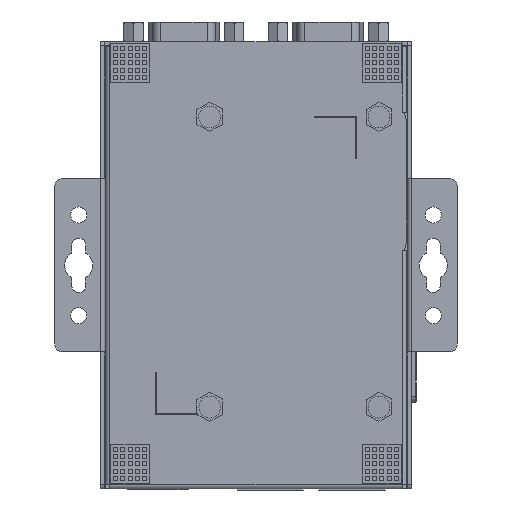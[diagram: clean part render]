
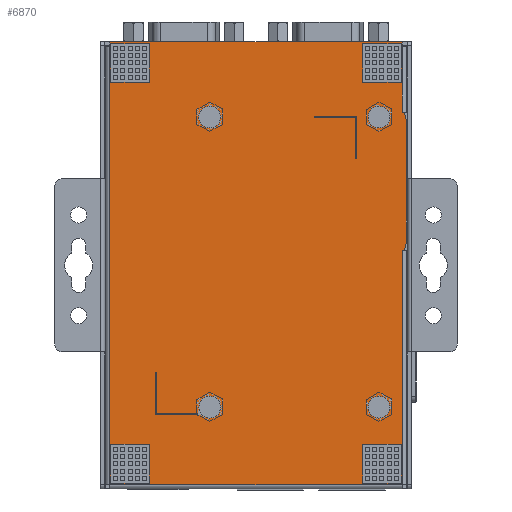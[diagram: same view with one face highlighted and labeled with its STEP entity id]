
A CAD part, front view. The second image highlights one B-rep face of the part: STEP entity #6870.
In plain terms, the highlighted planar face has unit normal (0, -1, 0).
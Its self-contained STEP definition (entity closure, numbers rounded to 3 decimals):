
#447=CARTESIAN_POINT('',(-11.495,0.,36.805));
#448=DIRECTION('',(0.,1.,0.));
#449=DIRECTION('',(0.,0.,1.));
#450=AXIS2_PLACEMENT_3D('',#447,#448,#449);
#455=CARTESIAN_POINT('',(-11.495,0.,36.805));
#456=DIRECTION('',(0.,1.,0.));
#457=DIRECTION('',(0.,0.,-1.));
#458=AXIS2_PLACEMENT_3D('',#455,#456,#457);
#463=CARTESIAN_POINT('',(30.524,0.,36.795));
#464=DIRECTION('',(0.,1.,0.));
#465=DIRECTION('',(0.,0.,1.));
#466=AXIS2_PLACEMENT_3D('',#463,#464,#465);
#471=CARTESIAN_POINT('',(30.524,0.,36.795));
#472=DIRECTION('',(0.,1.,0.));
#473=DIRECTION('',(0.,0.,-1.));
#474=AXIS2_PLACEMENT_3D('',#471,#472,#473);
#479=CARTESIAN_POINT('',(-11.485,0.,-35.196));
#480=DIRECTION('',(0.,1.,0.));
#481=DIRECTION('',(0.,0.,1.));
#482=AXIS2_PLACEMENT_3D('',#479,#480,#481);
#487=CARTESIAN_POINT('',(-11.485,0.,-35.196));
#488=DIRECTION('',(0.,1.,0.));
#489=DIRECTION('',(0.,0.,-1.));
#490=AXIS2_PLACEMENT_3D('',#487,#488,#489);
#495=CARTESIAN_POINT('',(30.504,0.,-35.204));
#496=DIRECTION('',(0.,1.,0.));
#497=DIRECTION('',(0.,0.,1.));
#498=AXIS2_PLACEMENT_3D('',#495,#496,#497);
#503=CARTESIAN_POINT('',(30.504,0.,-35.204));
#504=DIRECTION('',(0.,1.,0.));
#505=DIRECTION('',(0.,0.,-1.));
#506=AXIS2_PLACEMENT_3D('',#503,#504,#505);
#511=DIRECTION('',(-1.,0.,0.));
#512=VECTOR('',#511,10.5);
#513=CARTESIAN_POINT('',(-14.5,0.,-37.));
#514=LINE('',#513,#512);
#518=DIRECTION('',(0.,0.,-1.));
#519=VECTOR('',#518,0.2);
#520=CARTESIAN_POINT('',(-14.5,0.,-36.8));
#521=LINE('',#520,#519);
#525=DIRECTION('',(1.,0.,0.));
#526=VECTOR('',#525,10.3);
#527=CARTESIAN_POINT('',(-24.8,0.,-36.8));
#528=LINE('',#527,#526);
#532=DIRECTION('',(0.,0.,-1.));
#533=VECTOR('',#532,10.3);
#534=CARTESIAN_POINT('',(-24.8,0.,-26.5));
#535=LINE('',#534,#533);
#539=DIRECTION('',(1.,0.,0.));
#540=VECTOR('',#539,0.2);
#541=CARTESIAN_POINT('',(-25.,0.,-26.5));
#542=LINE('',#541,#540);
#546=DIRECTION('',(0.,0.,1.));
#547=VECTOR('',#546,10.5);
#548=CARTESIAN_POINT('',(-25.,0.,-37.));
#549=LINE('',#548,#547);
#553=DIRECTION('',(0.,0.,-1.));
#554=VECTOR('',#553,10.5);
#555=CARTESIAN_POINT('',(25.,0.,37.));
#556=LINE('',#555,#554);
#560=DIRECTION('',(1.,0.,0.));
#561=VECTOR('',#560,10.5);
#562=CARTESIAN_POINT('',(14.5,0.,37.));
#563=LINE('',#562,#561);
#567=DIRECTION('',(0.,0.,1.));
#568=VECTOR('',#567,0.2);
#569=CARTESIAN_POINT('',(14.5,0.,36.8));
#570=LINE('',#569,#568);
#574=DIRECTION('',(-1.,0.,0.));
#575=VECTOR('',#574,10.3);
#576=CARTESIAN_POINT('',(24.8,0.,36.8));
#577=LINE('',#576,#575);
#581=DIRECTION('',(0.,0.,1.));
#582=VECTOR('',#581,10.3);
#583=CARTESIAN_POINT('',(24.8,0.,26.5));
#584=LINE('',#583,#582);
#588=DIRECTION('',(-1.,0.,0.));
#589=VECTOR('',#588,0.2);
#590=CARTESIAN_POINT('',(25.,0.,26.5));
#591=LINE('',#590,#589);
#595=DIRECTION('',(0.,0.,-1.));
#596=VECTOR('',#595,1.15);
#597=CARTESIAN_POINT('',(-36.35,0.,55.5));
#598=LINE('',#597,#596);
#602=DIRECTION('',(-1.,0.,0.));
#603=VECTOR('',#602,72.7);
#604=CARTESIAN_POINT('',(36.35,0.,55.5));
#605=LINE('',#604,#603);
#609=DIRECTION('',(0.,0.,1.));
#610=VECTOR('',#609,1.15);
#611=CARTESIAN_POINT('',(36.35,0.,54.35));
#612=LINE('',#611,#610);
#616=DIRECTION('',(-1.,0.,0.));
#617=VECTOR('',#616,0.5);
#618=CARTESIAN_POINT('',(36.85,0.,38.01));
#619=LINE('',#618,#617);
#623=DIRECTION('',(-0.243,0.,0.97));
#624=VECTOR('',#623,2.062);
#625=CARTESIAN_POINT('',(37.35,0.,36.01));
#626=LINE('',#625,#624);
#630=DIRECTION('',(0.,0.,1.));
#631=VECTOR('',#630,30.25);
#632=CARTESIAN_POINT('',(37.35,0.,5.76));
#633=LINE('',#632,#631);
#637=DIRECTION('',(0.243,0.,0.97));
#638=VECTOR('',#637,2.062);
#639=CARTESIAN_POINT('',(36.85,0.,3.76));
#640=LINE('',#639,#638);
#644=DIRECTION('',(1.,0.,0.));
#645=VECTOR('',#644,0.5);
#646=CARTESIAN_POINT('',(36.35,0.,3.76));
#647=LINE('',#646,#645);
#868=DIRECTION('',(0.,0.,-1.));
#869=VECTOR('',#868,58.26);
#870=CARTESIAN_POINT('',(36.35,0.,3.76));
#871=LINE('',#870,#869);
#3021=DIRECTION('',(-1.,0.,0.));
#3022=VECTOR('',#3021,72.7);
#3023=CARTESIAN_POINT('',(36.35,0.,-54.5));
#3024=LINE('',#3023,#3022);
#4601=DIRECTION('',(0.,0.,-1.));
#4602=VECTOR('',#4601,16.34);
#4603=CARTESIAN_POINT('',(36.35,0.,54.35));
#4604=LINE('',#4603,#4602);
#4681=DIRECTION('',(0.,0.,1.));
#4682=VECTOR('',#4681,108.85);
#4683=CARTESIAN_POINT('',(-36.35,0.,-54.5));
#4684=LINE('',#4683,#4682);
#5980=CARTESIAN_POINT('',(-36.35,0.,-54.5));
#5982=VERTEX_POINT('',#5980);
#5987=CARTESIAN_POINT('',(36.35,0.,-54.5));
#5988=VERTEX_POINT('',#5987);
#5989=CARTESIAN_POINT('',(-36.35,0.,54.35));
#5990=VERTEX_POINT('',#5989);
#6025=CARTESIAN_POINT('',(-36.35,0.,55.5));
#6026=VERTEX_POINT('',#6025);
#6029=CARTESIAN_POINT('',(36.35,0.,54.35));
#6030=CARTESIAN_POINT('',(36.35,0.,55.5));
#6031=VERTEX_POINT('',#6029);
#6032=VERTEX_POINT('',#6030);
#6063=CARTESIAN_POINT('',(36.85,0.,3.76));
#6064=CARTESIAN_POINT('',(37.35,0.,5.76));
#6065=VERTEX_POINT('',#6063);
#6066=VERTEX_POINT('',#6064);
#6067=CARTESIAN_POINT('',(-11.495,0.,39.505));
#6068=CARTESIAN_POINT('',(-11.495,0.,34.105));
#6069=VERTEX_POINT('',#6067);
#6070=VERTEX_POINT('',#6068);
#6101=CARTESIAN_POINT('',(37.35,0.,36.01));
#6102=VERTEX_POINT('',#6101);
#6103=CARTESIAN_POINT('',(30.524,0.,39.495));
#6104=CARTESIAN_POINT('',(30.524,0.,34.095));
#6105=VERTEX_POINT('',#6103);
#6106=VERTEX_POINT('',#6104);
#6145=CARTESIAN_POINT('',(36.85,0.,38.01));
#6146=VERTEX_POINT('',#6145);
#6147=CARTESIAN_POINT('',(-11.485,0.,-32.496));
#6148=CARTESIAN_POINT('',(-11.485,0.,-37.896));
#6149=VERTEX_POINT('',#6147);
#6150=VERTEX_POINT('',#6148);
#6185=CARTESIAN_POINT('',(30.504,0.,-32.504));
#6186=CARTESIAN_POINT('',(30.504,0.,-37.904));
#6187=VERTEX_POINT('',#6185);
#6188=VERTEX_POINT('',#6186);
#6241=CARTESIAN_POINT('',(-14.5,0.,-37.));
#6242=CARTESIAN_POINT('',(-25.,0.,-37.));
#6243=VERTEX_POINT('',#6241);
#6244=VERTEX_POINT('',#6242);
#6295=CARTESIAN_POINT('',(25.,0.,37.));
#6296=CARTESIAN_POINT('',(25.,0.,26.5));
#6297=VERTEX_POINT('',#6295);
#6298=VERTEX_POINT('',#6296);
#6299=CARTESIAN_POINT('',(-25.,0.,-26.5));
#6300=VERTEX_POINT('',#6299);
#6301=CARTESIAN_POINT('',(-14.5,0.,-36.8));
#6302=VERTEX_POINT('',#6301);
#6335=CARTESIAN_POINT('',(24.8,0.,26.5));
#6336=VERTEX_POINT('',#6335);
#6337=CARTESIAN_POINT('',(14.5,0.,37.));
#6338=VERTEX_POINT('',#6337);
#6339=CARTESIAN_POINT('',(-24.8,0.,-26.5));
#6340=VERTEX_POINT('',#6339);
#6341=CARTESIAN_POINT('',(-24.8,0.,-36.8));
#6342=VERTEX_POINT('',#6341);
#6363=CARTESIAN_POINT('',(24.8,0.,36.8));
#6364=VERTEX_POINT('',#6363);
#6365=CARTESIAN_POINT('',(14.5,0.,36.8));
#6366=VERTEX_POINT('',#6365);
#6470=CARTESIAN_POINT('',(36.35,0.,38.01));
#6472=VERTEX_POINT('',#6470);
#6478=CARTESIAN_POINT('',(36.35,0.,3.76));
#6480=VERTEX_POINT('',#6478);
#6789=CARTESIAN_POINT('',(0.,0.,0.));
#6790=DIRECTION('',(0.,1.,0.));
#6791=DIRECTION('',(1.,0.,0.));
#6792=AXIS2_PLACEMENT_3D('',#6789,#6790,#6791);
#6793=PLANE('',#6792);
#6795=ORIENTED_EDGE('',*,*,#6794,.T.);
#6797=ORIENTED_EDGE('',*,*,#6796,.T.);
#6799=ORIENTED_EDGE('',*,*,#6798,.T.);
#6801=ORIENTED_EDGE('',*,*,#6800,.F.);
#6803=ORIENTED_EDGE('',*,*,#6802,.F.);
#6805=ORIENTED_EDGE('',*,*,#6804,.F.);
#6807=ORIENTED_EDGE('',*,*,#6806,.T.);
#6809=ORIENTED_EDGE('',*,*,#6808,.F.);
#6811=ORIENTED_EDGE('',*,*,#6810,.F.);
#6813=ORIENTED_EDGE('',*,*,#6812,.F.);
#6815=ORIENTED_EDGE('',*,*,#6814,.F.);
#6817=ORIENTED_EDGE('',*,*,#6816,.F.);
#6818=EDGE_LOOP('',(#6795,#6797,#6799,#6801,#6803,#6805,#6807,#6809,#6811,#6813,
#6815,#6817));
#6819=FACE_OUTER_BOUND('',#6818,.F.);
#6821=ORIENTED_EDGE('',*,*,#6820,.F.);
#6823=ORIENTED_EDGE('',*,*,#6822,.F.);
#6824=EDGE_LOOP('',(#6821,#6823));
#6825=FACE_BOUND('',#6824,.F.);
#6827=ORIENTED_EDGE('',*,*,#6826,.F.);
#6829=ORIENTED_EDGE('',*,*,#6828,.F.);
#6830=EDGE_LOOP('',(#6827,#6829));
#6831=FACE_BOUND('',#6830,.F.);
#6833=ORIENTED_EDGE('',*,*,#6832,.F.);
#6835=ORIENTED_EDGE('',*,*,#6834,.F.);
#6836=EDGE_LOOP('',(#6833,#6835));
#6837=FACE_BOUND('',#6836,.F.);
#6839=ORIENTED_EDGE('',*,*,#6838,.F.);
#6841=ORIENTED_EDGE('',*,*,#6840,.F.);
#6843=ORIENTED_EDGE('',*,*,#6842,.F.);
#6845=ORIENTED_EDGE('',*,*,#6844,.F.);
#6847=ORIENTED_EDGE('',*,*,#6846,.F.);
#6849=ORIENTED_EDGE('',*,*,#6848,.F.);
#6850=EDGE_LOOP('',(#6839,#6841,#6843,#6845,#6847,#6849));
#6851=FACE_BOUND('',#6850,.F.);
#6853=ORIENTED_EDGE('',*,*,#6852,.F.);
#6855=ORIENTED_EDGE('',*,*,#6854,.F.);
#6857=ORIENTED_EDGE('',*,*,#6856,.F.);
#6859=ORIENTED_EDGE('',*,*,#6858,.F.);
#6861=ORIENTED_EDGE('',*,*,#6860,.F.);
#6863=ORIENTED_EDGE('',*,*,#6862,.F.);
#6864=EDGE_LOOP('',(#6853,#6855,#6857,#6859,#6861,#6863));
#6865=FACE_BOUND('',#6864,.F.);
#6866=ORIENTED_EDGE('',*,*,#6768,.F.);
#6867=ORIENTED_EDGE('',*,*,#6782,.F.);
#6868=EDGE_LOOP('',(#6866,#6867));
#6869=FACE_BOUND('',#6868,.F.);
#6870=ADVANCED_FACE('',(#6819,#6825,#6831,#6837,#6851,#6865,#6869),#6793,.F.);
#451=CIRCLE('',#450,2.7);
#459=CIRCLE('',#458,2.7);
#467=CIRCLE('',#466,2.7);
#475=CIRCLE('',#474,2.7);
#483=CIRCLE('',#482,2.7);
#491=CIRCLE('',#490,2.7);
#499=CIRCLE('',#498,2.7);
#507=CIRCLE('',#506,2.7);
#6768=EDGE_CURVE('',#6069,#6070,#451,.T.);
#6782=EDGE_CURVE('',#6070,#6069,#459,.T.);
#6794=EDGE_CURVE('',#6480,#5988,#871,.T.);
#6796=EDGE_CURVE('',#5988,#5982,#3024,.T.);
#6798=EDGE_CURVE('',#5982,#5990,#4684,.T.);
#6800=EDGE_CURVE('',#6026,#5990,#598,.T.);
#6802=EDGE_CURVE('',#6032,#6026,#605,.T.);
#6804=EDGE_CURVE('',#6031,#6032,#612,.T.);
#6806=EDGE_CURVE('',#6031,#6472,#4604,.T.);
#6808=EDGE_CURVE('',#6146,#6472,#619,.T.);
#6810=EDGE_CURVE('',#6102,#6146,#626,.T.);
#6812=EDGE_CURVE('',#6066,#6102,#633,.T.);
#6814=EDGE_CURVE('',#6065,#6066,#640,.T.);
#6816=EDGE_CURVE('',#6480,#6065,#647,.T.);
#6820=EDGE_CURVE('',#6105,#6106,#467,.T.);
#6822=EDGE_CURVE('',#6106,#6105,#475,.T.);
#6826=EDGE_CURVE('',#6149,#6150,#483,.T.);
#6828=EDGE_CURVE('',#6150,#6149,#491,.T.);
#6832=EDGE_CURVE('',#6187,#6188,#499,.T.);
#6834=EDGE_CURVE('',#6188,#6187,#507,.T.);
#6838=EDGE_CURVE('',#6243,#6244,#514,.T.);
#6840=EDGE_CURVE('',#6302,#6243,#521,.T.);
#6842=EDGE_CURVE('',#6342,#6302,#528,.T.);
#6844=EDGE_CURVE('',#6340,#6342,#535,.T.);
#6846=EDGE_CURVE('',#6300,#6340,#542,.T.);
#6848=EDGE_CURVE('',#6244,#6300,#549,.T.);
#6852=EDGE_CURVE('',#6297,#6298,#556,.T.);
#6854=EDGE_CURVE('',#6338,#6297,#563,.T.);
#6856=EDGE_CURVE('',#6366,#6338,#570,.T.);
#6858=EDGE_CURVE('',#6364,#6366,#577,.T.);
#6860=EDGE_CURVE('',#6336,#6364,#584,.T.);
#6862=EDGE_CURVE('',#6298,#6336,#591,.T.);
